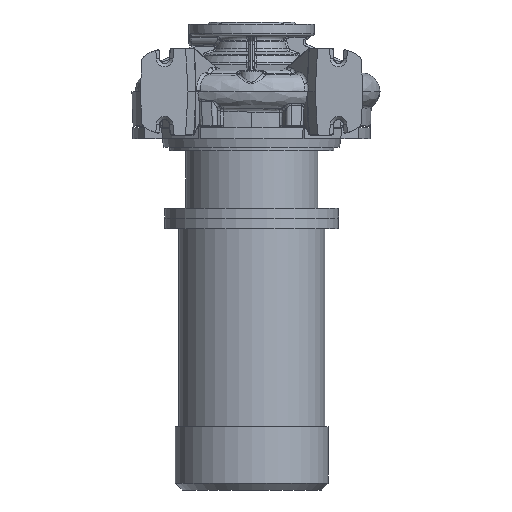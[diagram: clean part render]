
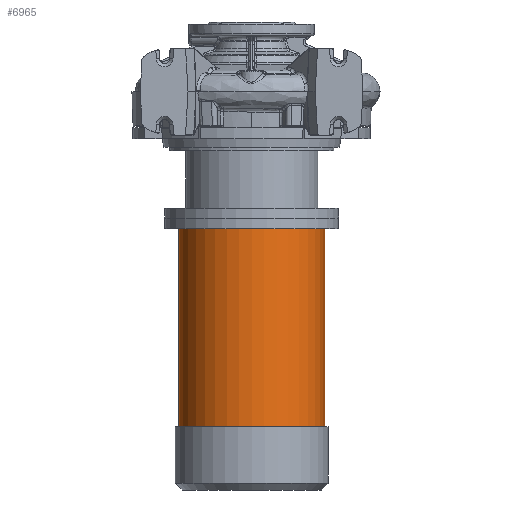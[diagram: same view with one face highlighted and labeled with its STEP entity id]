
A CAD part, front view. The second image highlights one B-rep face of the part: STEP entity #6965.
In plain terms, the highlighted cylindrical face has radius 105 mm (diameter 210 mm), a partial arc.
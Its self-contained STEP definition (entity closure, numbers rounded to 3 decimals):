
#263 = EDGE_LOOP ( 'NONE', ( #44779, #55244, #11647, #4531 ) ) ;
#1120 = EDGE_CURVE ( 'NONE', #27896, #22389, #32886, .T. ) ;
#4531 = ORIENTED_EDGE ( 'NONE', *, *, #64484, .F. ) ;
#6965 = ADVANCED_FACE ( 'NONE', ( #11127 ), #60712, .T. ) ;
#8744 = CARTESIAN_POINT ( 'NONE',  ( 0., 0., -482. ) ) ;
#8827 = DIRECTION ( 'NONE',  ( 0., 0., -1. ) ) ;
#9061 = VECTOR ( 'NONE', #55510, 1000. ) ;
#11127 = FACE_OUTER_BOUND ( 'NONE', #263, .T. ) ;
#11647 = ORIENTED_EDGE ( 'NONE', *, *, #71662, .T. ) ;
#14840 = CARTESIAN_POINT ( 'NONE',  ( 0., 0., -573. ) ) ;
#19984 = EDGE_CURVE ( 'NONE', #27896, #20904, #38346, .T. ) ;
#20904 = VERTEX_POINT ( 'NONE', #28179 ) ;
#21172 = AXIS2_PLACEMENT_3D ( 'NONE', #23023, #8827, #22743 ) ;
#22389 = VERTEX_POINT ( 'NONE', #61211 ) ;
#22743 = DIRECTION ( 'NONE',  ( -1., 0., 0. ) ) ;
#23023 = CARTESIAN_POINT ( 'NONE',  ( 0., 0., -197. ) ) ;
#24721 = DIRECTION ( 'NONE',  ( 0., 0., -1. ) ) ;
#27896 = VERTEX_POINT ( 'NONE', #62297 ) ;
#28179 = CARTESIAN_POINT ( 'NONE',  ( 105., 0., -482. ) ) ;
#28363 = VECTOR ( 'NONE', #24721, 1000. ) ;
#29349 = CARTESIAN_POINT ( 'NONE',  ( -105., 0., -482. ) ) ;
#32886 = CIRCLE ( 'NONE', #21172, 105. ) ;
#38346 = LINE ( 'NONE', #46693, #9061 ) ;
#39224 = AXIS2_PLACEMENT_3D ( 'NONE', #14840, #43377, #42788 ) ;
#42788 = DIRECTION ( 'NONE',  ( -1., 0., 0. ) ) ;
#43377 = DIRECTION ( 'NONE',  ( 0., 0., -1. ) ) ;
#44779 = ORIENTED_EDGE ( 'NONE', *, *, #19984, .F. ) ;
#46693 = CARTESIAN_POINT ( 'NONE',  ( 105., 0., -573. ) ) ;
#46851 = LINE ( 'NONE', #86969, #28363 ) ;
#55244 = ORIENTED_EDGE ( 'NONE', *, *, #1120, .T. ) ;
#55510 = DIRECTION ( 'NONE',  ( 0., 0., -1. ) ) ;
#57306 = DIRECTION ( 'NONE',  ( 0., 0., -1. ) ) ;
#60712 = CYLINDRICAL_SURFACE ( 'NONE', #39224, 105. ) ;
#61211 = CARTESIAN_POINT ( 'NONE',  ( -105., 0., -197. ) ) ;
#62297 = CARTESIAN_POINT ( 'NONE',  ( 105., 0., -197. ) ) ;
#64484 = EDGE_CURVE ( 'NONE', #20904, #71408, #77721, .T. ) ;
#70644 = AXIS2_PLACEMENT_3D ( 'NONE', #8744, #57306, #77346 ) ;
#71408 = VERTEX_POINT ( 'NONE', #29349 ) ;
#71662 = EDGE_CURVE ( 'NONE', #22389, #71408, #46851, .T. ) ;
#77346 = DIRECTION ( 'NONE',  ( -1., 0., 0. ) ) ;
#77721 = CIRCLE ( 'NONE', #70644, 105. ) ;
#86969 = CARTESIAN_POINT ( 'NONE',  ( -105., 0., -573. ) ) ;
